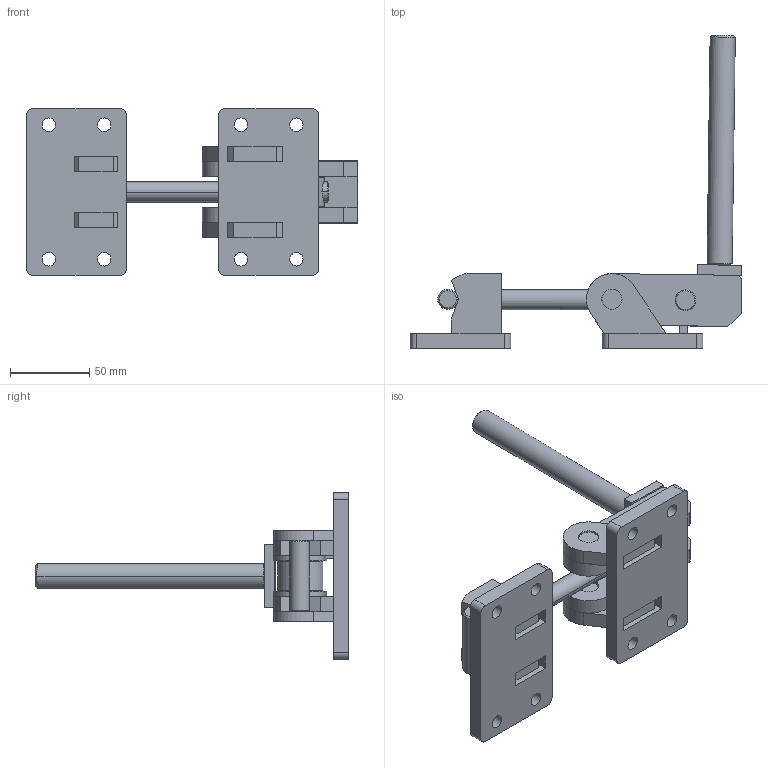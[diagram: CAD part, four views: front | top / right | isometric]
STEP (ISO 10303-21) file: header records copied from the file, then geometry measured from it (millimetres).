
FILE_DESCRIPTION (( 'STEP AP203' ), '1' );
FILE_NAME ('KF-330.STEP', '2014-08-22T13:48:06', ( 'Ricardo' ), ( '' ), 'SwSTEP 2.0', 'SolidWorks 2013', '' );
FILE_SCHEMA (( 'CONFIG_CONTROL_DESIGN' ));
Length unit declared in the file: millimetre
Products named in the file (13): 16.20019; 15.10015; 15.10016; KF-330; 16.20020; 02.10013; 03.20011; 15.10014; 02.10012; 08.10022; 01.20007; 15.10017; 04.10006
Assembly tree (16 placements, depth 2):
  KF-330
    02.10012
    02.10013
    15.10014  x2
    15.10015  x2
    08.10022  x2
    15.10016
    01.20007
    03.20011
    15.10017
    16.20019
    04.10006
    16.20020  x2
Bounding box: 209.37 x 197.77 x 105 mm (x, y, z)
Volume: 291291.4 mm3; surface area: 94373.9 mm2
Topology: 16 solids, 16 shells, 200 faces, 478 edges, 310 vertices
Faces by surface type: plane 112, cylinder 62, cone 26
Entity records: 6214 total; most frequent: CARTESIAN_POINT 953, DIRECTION 829, ORIENTED_EDGE 738, EDGE_CURVE 369, AXIS2_PLACEMENT_3D 294, VECTOR 241, LINE 241, VERTEX_POINT 238
